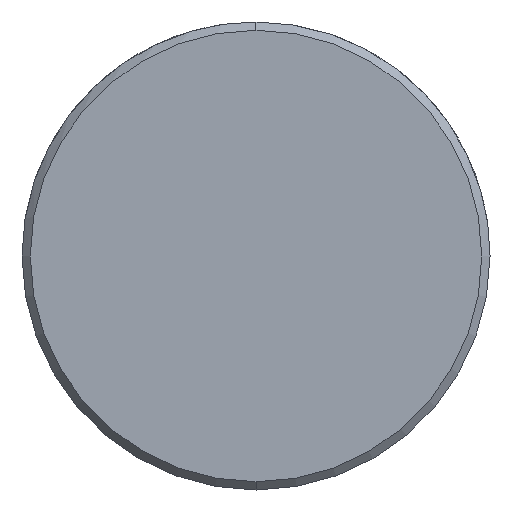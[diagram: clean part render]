
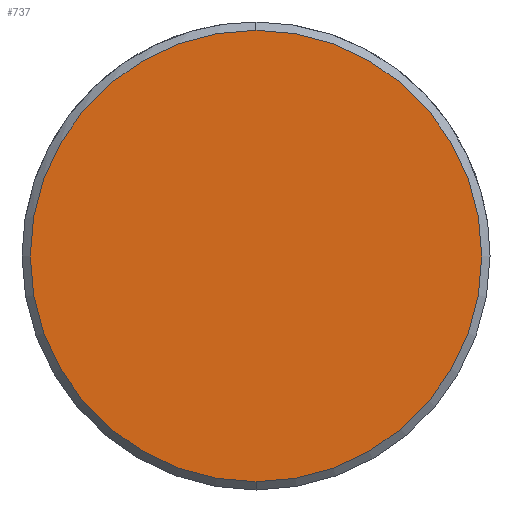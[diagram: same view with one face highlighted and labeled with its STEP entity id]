
A CAD part, left-side view. The second image highlights one B-rep face of the part: STEP entity #737.
In plain terms, the highlighted planar face has unit normal (-1, 0, 0).
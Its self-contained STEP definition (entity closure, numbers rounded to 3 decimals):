
#669=CARTESIAN_POINT('Vertex',(0.,0.,-8.2)) ;
#672=CARTESIAN_POINT('Axis2P3D Location',(0.,0.,0.)) ;
#676=CARTESIAN_POINT('Vertex',(0.,8.2,0.)) ;
#679=CARTESIAN_POINT('Axis2P3D Location',(0.,0.,0.)) ;
#683=CARTESIAN_POINT('Vertex',(0.,0.,8.2)) ;
#705=CARTESIAN_POINT('Axis2P3D Location',(0.,0.,0.)) ;
#709=CARTESIAN_POINT('Vertex',(0.,-8.2,0.)) ;
#712=CARTESIAN_POINT('Axis2P3D Location',(0.,0.,0.)) ;
#726=CARTESIAN_POINT('Axis2P3D Location',(0.,0.,0.)) ;
#673=DIRECTION('Axis2P3D Direction',(1.,0.,-0.)) ;
#680=DIRECTION('Axis2P3D Direction',(1.,0.,-0.)) ;
#706=DIRECTION('Axis2P3D Direction',(1.,0.,-0.)) ;
#713=DIRECTION('Axis2P3D Direction',(1.,0.,-0.)) ;
#727=DIRECTION('Axis2P3D Direction',(1.,0.,-0.)) ;
#728=DIRECTION('Axis2P3D XDirection',(-0.,0.,-1.)) ;
#674=AXIS2_PLACEMENT_3D('Circle Axis2P3D',#672,#673,$) ;
#681=AXIS2_PLACEMENT_3D('Circle Axis2P3D',#679,#680,$) ;
#707=AXIS2_PLACEMENT_3D('Circle Axis2P3D',#705,#706,$) ;
#714=AXIS2_PLACEMENT_3D('Circle Axis2P3D',#712,#713,$) ;
#729=AXIS2_PLACEMENT_3D('Plane Axis2P3D',#726,#727,#728) ;
#732=ORIENTED_EDGE('',*,*,#678,.F.) ;
#733=ORIENTED_EDGE('',*,*,#716,.F.) ;
#734=ORIENTED_EDGE('',*,*,#711,.F.) ;
#735=ORIENTED_EDGE('',*,*,#685,.F.) ;
#737=ADVANCED_FACE('549-14X80',(#736),#730,.F.) ;
#675=CIRCLE('generated circle',#674,8.2) ;
#682=CIRCLE('generated circle',#681,8.2) ;
#708=CIRCLE('generated circle',#707,8.2) ;
#715=CIRCLE('generated circle',#714,8.2) ;
#678=EDGE_CURVE('',#670,#677,#675,.T.) ;
#685=EDGE_CURVE('',#677,#684,#682,.T.) ;
#711=EDGE_CURVE('',#684,#710,#708,.T.) ;
#716=EDGE_CURVE('',#710,#670,#715,.T.) ;
#731=EDGE_LOOP('',(#732,#733,#734,#735)) ;
#736=FACE_OUTER_BOUND('',#731,.T.) ;
#730=PLANE('Plane',#729) ;
#670=VERTEX_POINT('',#669) ;
#677=VERTEX_POINT('',#676) ;
#684=VERTEX_POINT('',#683) ;
#710=VERTEX_POINT('',#709) ;
